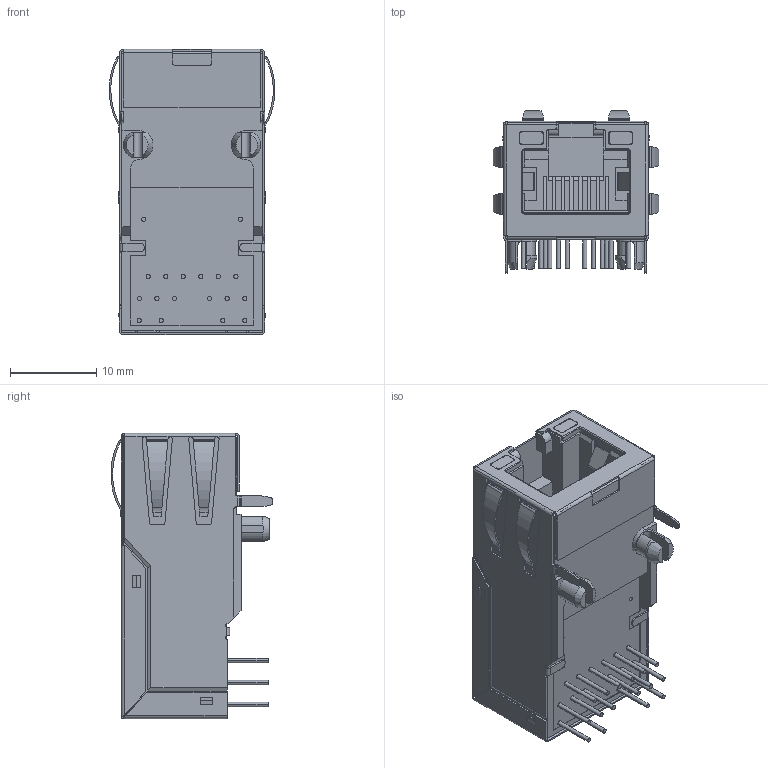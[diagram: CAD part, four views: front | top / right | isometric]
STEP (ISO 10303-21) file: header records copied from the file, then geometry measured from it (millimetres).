
FILE_DESCRIPTION((''),'2;1');
FILE_NAME('857931003','2014-01-27T',('me'),(''),'PRO/ENGINEER BY PARAMETRIC TECHNOLOGY CORPORATION, 2011490','PRO/ENGINEER BY PARAMETRIC TECHNOLOGY CORPORATION, 2011490','');
FILE_SCHEMA(('CONFIG_CONTROL_DESIGN'));
Length unit declared in the file: millimetre
Products named in the file (1): 857931003
Bounding box: 19.17 x 18.74 x 33.01 mm (x, y, z)
Volume: 5892.5 mm3; surface area: 6472.7 mm2
Topology: 1 solids, 1 shells, 679 faces, 1974 edges, 1340 vertices
Faces by surface type: plane 439, cylinder 232, torus 4, cone 4
Entity records: 22445 total; most frequent: CARTESIAN_POINT 4314, ORIENTED_EDGE 3826, DIRECTION 3632, EDGE_CURVE 1913, VECTOR 1432, LINE 1432, VERTEX_POINT 1258, AXIS2_PLACEMENT_3D 1100
